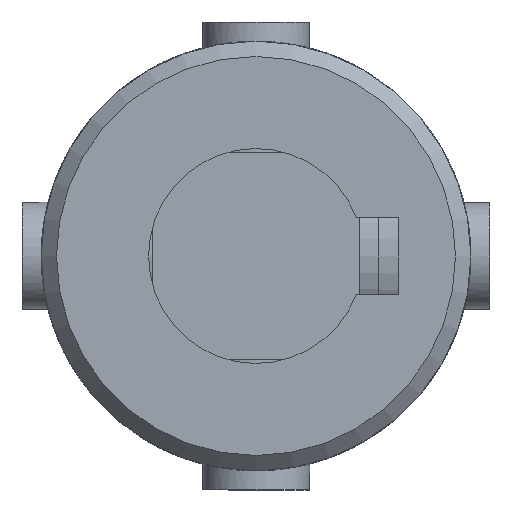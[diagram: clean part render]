
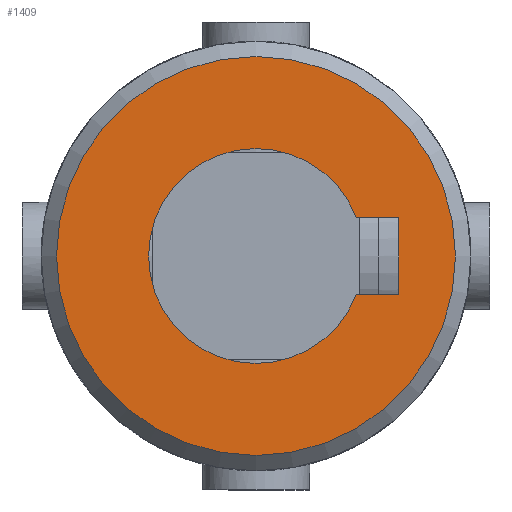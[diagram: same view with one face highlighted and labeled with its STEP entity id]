
A CAD part, left-side view. The second image highlights one B-rep face of the part: STEP entity #1409.
In plain terms, the highlighted planar face has unit normal (-1, 0, 0) as drawn and (0, -1, 0) by its records, which use the part's own axes.
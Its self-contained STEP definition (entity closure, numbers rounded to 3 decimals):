
#110=LINE('',#2727,#167);
#115=LINE('',#2744,#172);
#116=LINE('',#2757,#173);
#167=VECTOR('',#1831,2.762);
#172=VECTOR('',#1842,2.762);
#173=VECTOR('',#1845,5.);
#219=PLANE('',#1546);
#332=FACE_BOUND('',#513,.T.);
#400=FACE_OUTER_BOUND('',#512,.T.);
#512=EDGE_LOOP('',(#1228));
#513=EDGE_LOOP('',(#1229,#1230,#1231,#1232));
#577=CIRCLE('',#1534,7.);
#582=CIRCLE('',#1544,13.);
#692=VERTEX_POINT('',#2716);
#693=VERTEX_POINT('',#2718);
#695=VERTEX_POINT('',#2726);
#701=VERTEX_POINT('',#2742);
#703=VERTEX_POINT('',#2763);
#868=EDGE_CURVE('',#693,#692,#577,.T.);
#871=EDGE_CURVE('',#695,#693,#110,.T.);
#879=EDGE_CURVE('',#692,#701,#115,.T.);
#881=EDGE_CURVE('',#701,#695,#116,.T.);
#884=EDGE_CURVE('',#703,#703,#582,.T.);
#1228=ORIENTED_EDGE('',*,*,#884,.F.);
#1229=ORIENTED_EDGE('',*,*,#879,.T.);
#1230=ORIENTED_EDGE('',*,*,#881,.T.);
#1231=ORIENTED_EDGE('',*,*,#871,.T.);
#1232=ORIENTED_EDGE('',*,*,#868,.T.);
#1409=ADVANCED_FACE('',(#400,#332),#219,.F.);
#1534=AXIS2_PLACEMENT_3D('',#2719,#1826,#1827);
#1544=AXIS2_PLACEMENT_3D('',#2764,#1854,#1855);
#1546=AXIS2_PLACEMENT_3D('',#2940,#1862,#1863);
#1826=DIRECTION('center_axis',(0.,1.,0.));
#1827=DIRECTION('ref_axis',(-0.357,0.,0.934));
#1831=DIRECTION('',(0.,0.,1.));
#1842=DIRECTION('',(0.,0.,-1.));
#1845=DIRECTION('',(-1.,0.,0.));
#1854=DIRECTION('center_axis',(0.,1.,0.));
#1855=DIRECTION('ref_axis',(1.,0.,0.));
#1862=DIRECTION('center_axis',(0.,1.,0.));
#1863=DIRECTION('ref_axis',(0.,0.,1.));
#2716=CARTESIAN_POINT('',(2.5,-36.5,-6.538));
#2718=CARTESIAN_POINT('',(-2.5,-36.5,-6.538));
#2719=CARTESIAN_POINT('Origin',(0.,-36.5,0.));
#2726=CARTESIAN_POINT('',(-2.5,-36.5,-9.3));
#2727=CARTESIAN_POINT('',(-2.5,-36.5,-4.65));
#2742=CARTESIAN_POINT('',(2.5,-36.5,-9.3));
#2744=CARTESIAN_POINT('',(2.5,-36.5,-3.269));
#2757=CARTESIAN_POINT('',(1.25,-36.5,-9.3));
#2763=CARTESIAN_POINT('',(-13.,-36.5,0.));
#2764=CARTESIAN_POINT('Origin',(0.,-36.5,0.));
#2940=CARTESIAN_POINT('Origin',(0.,-36.5,0.));
